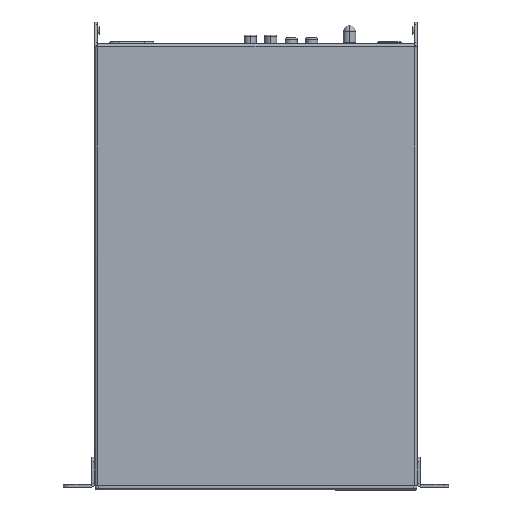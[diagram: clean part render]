
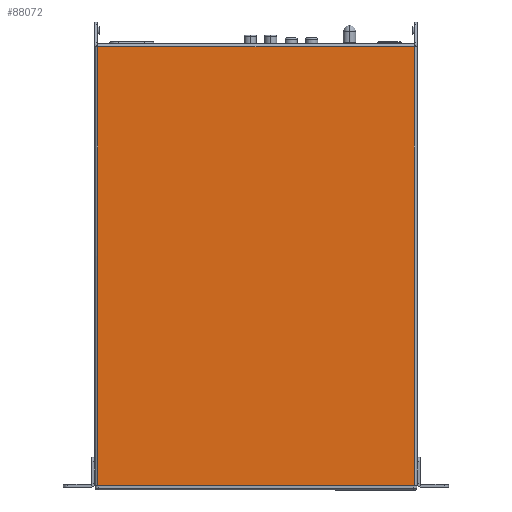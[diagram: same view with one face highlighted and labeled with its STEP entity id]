
A CAD part, front view. The second image highlights one B-rep face of the part: STEP entity #88072.
In plain terms, the highlighted planar face has unit normal (0, -1, 0).
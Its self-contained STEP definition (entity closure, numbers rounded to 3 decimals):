
#8288 = CARTESIAN_POINT ( 'NONE',  ( 27.18, 169.671, 58.259 ) ) ;
#14881 = CARTESIAN_POINT ( 'NONE',  ( 27.18, 169.671, 58.259 ) ) ;
#16618 = DIRECTION ( 'NONE',  ( 1., 0., 0. ) ) ;
#20234 = EDGE_LOOP ( 'NONE', ( #141526, #177983, #141635, #148550, #137928, #153321 ) ) ;
#22659 = EDGE_CURVE ( 'NONE', #175523, #108190, #155548, .T. ) ;
#35725 = B_SPLINE_CURVE_WITH_KNOTS ( 'NONE', 3,
 ( #8288, #66757, #125213, #183570 ),
 .UNSPECIFIED., .F., .F.,
 ( 4, 4 ),
 ( 0., 0. ),
 .UNSPECIFIED. ) ;
#45792 = EDGE_CURVE ( 'NONE', #85463, #144914, #35725, .T. ) ;
#49988 = VECTOR ( 'NONE', #127678, 1000. ) ;
#51121 = EDGE_CURVE ( 'NONE', #108190, #60098, #131004, .T. ) ;
#52421 = CARTESIAN_POINT ( 'NONE',  ( 243.48, 169.671, 358.162 ) ) ;
#60098 = VERTEX_POINT ( 'NONE', #170662 ) ;
#60249 = VERTEX_POINT ( 'NONE', #157218 ) ;
#66757 = CARTESIAN_POINT ( 'NONE',  ( 27.315, 169.671, 58.195 ) ) ;
#71470 = CARTESIAN_POINT ( 'NONE',  ( 27.18, 169.671, 58.162 ) ) ;
#79269 = CARTESIAN_POINT ( 'NONE',  ( 243.345, 169.671, 58.195 ) ) ;
#80132 = EDGE_CURVE ( 'NONE', #60098, #60249, #83097, .T. ) ;
#83097 = LINE ( 'NONE', #52421, #164220 ) ;
#85067 = CARTESIAN_POINT ( 'NONE',  ( 243.48, 169.671, 58.162 ) ) ;
#85463 = VERTEX_POINT ( 'NONE', #14881 ) ;
#86964 = DIRECTION ( 'NONE',  ( 0., 0., 1. ) ) ;
#88072 = ADVANCED_FACE ( 'NONE', ( #145994 ), #146920, .T. ) ;
#88298 = EDGE_CURVE ( 'NONE', #144914, #175523, #112377, .T. ) ;
#94492 = CARTESIAN_POINT ( 'NONE',  ( 243.049, 169.671, 58.162 ) ) ;
#95130 = VECTOR ( 'NONE', #129913, 1000. ) ;
#95774 = EDGE_CURVE ( 'NONE', #85463, #60249, #121917, .T. ) ;
#100859 = CARTESIAN_POINT ( 'NONE',  ( 25.18, 169.671, 58.162 ) ) ;
#108190 = VERTEX_POINT ( 'NONE', #160385 ) ;
#112377 = LINE ( 'NONE', #100859, #49988 ) ;
#118256 = DIRECTION ( 'NONE',  ( 0., -1., 0. ) ) ;
#118339 = CARTESIAN_POINT ( 'NONE',  ( 27.611, 169.671, 58.162 ) ) ;
#121917 = LINE ( 'NONE', #71470, #95130 ) ;
#125213 = CARTESIAN_POINT ( 'NONE',  ( 27.462, 169.671, 58.162 ) ) ;
#126140 = CARTESIAN_POINT ( 'NONE',  ( 243.049, 169.671, 58.162 ) ) ;
#127678 = DIRECTION ( 'NONE',  ( 1., 0., 0. ) ) ;
#129913 = DIRECTION ( 'NONE',  ( 0., 0., 1. ) ) ;
#131004 = LINE ( 'NONE', #85067, #187356 ) ;
#137928 = ORIENTED_EDGE ( 'NONE', *, *, #95774, .F. ) ;
#141526 = ORIENTED_EDGE ( 'NONE', *, *, #88298, .T. ) ;
#141635 = ORIENTED_EDGE ( 'NONE', *, *, #51121, .T. ) ;
#144914 = VERTEX_POINT ( 'NONE', #118339 ) ;
#145994 = FACE_OUTER_BOUND ( 'NONE', #20234, .T. ) ;
#146920 = PLANE ( 'NONE',  #175329 ) ;
#148550 = ORIENTED_EDGE ( 'NONE', *, *, #80132, .T. ) ;
#153321 = ORIENTED_EDGE ( 'NONE', *, *, #45792, .T. ) ;
#153869 = CARTESIAN_POINT ( 'NONE',  ( 243.48, 169.671, 58.259 ) ) ;
#155548 = B_SPLINE_CURVE_WITH_KNOTS ( 'NONE', 3,
 ( #126140, #170132, #79269, #153869 ),
 .UNSPECIFIED., .F., .F.,
 ( 4, 4 ),
 ( 0., 0. ),
 .UNSPECIFIED. ) ;
#157218 = CARTESIAN_POINT ( 'NONE',  ( 27.18, 169.671, 358.162 ) ) ;
#160385 = CARTESIAN_POINT ( 'NONE',  ( 243.48, 169.671, 58.259 ) ) ;
#162208 = CARTESIAN_POINT ( 'NONE',  ( 25.18, 169.671, 58.162 ) ) ;
#164220 = VECTOR ( 'NONE', #169254, 1000. ) ;
#169254 = DIRECTION ( 'NONE',  ( -1., 0., 0. ) ) ;
#170132 = CARTESIAN_POINT ( 'NONE',  ( 243.199, 169.671, 58.162 ) ) ;
#170662 = CARTESIAN_POINT ( 'NONE',  ( 243.48, 169.671, 358.162 ) ) ;
#175329 = AXIS2_PLACEMENT_3D ( 'NONE', #162208, #118256, #16618 ) ;
#175523 = VERTEX_POINT ( 'NONE', #94492 ) ;
#177983 = ORIENTED_EDGE ( 'NONE', *, *, #22659, .T. ) ;
#183570 = CARTESIAN_POINT ( 'NONE',  ( 27.611, 169.671, 58.162 ) ) ;
#187356 = VECTOR ( 'NONE', #86964, 1000. ) ;
